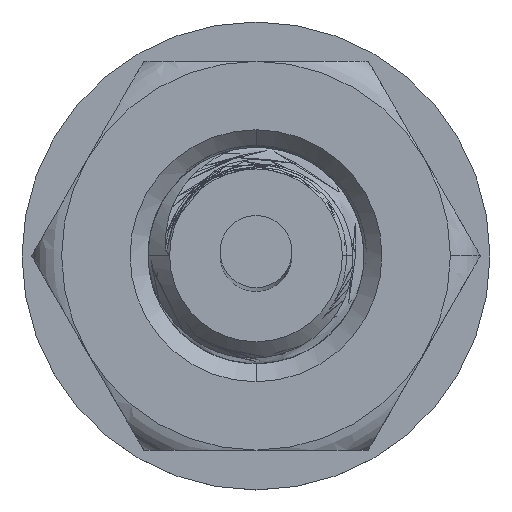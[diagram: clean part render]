
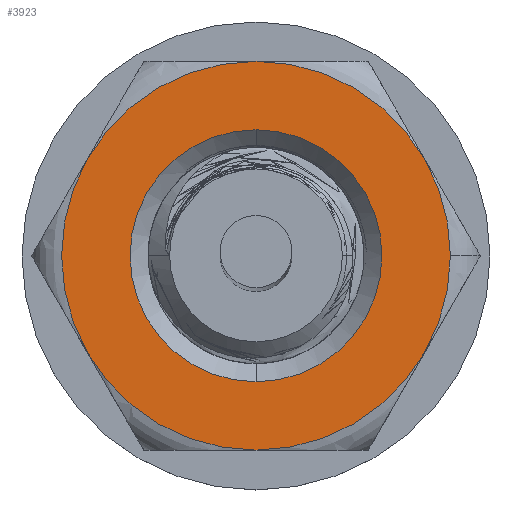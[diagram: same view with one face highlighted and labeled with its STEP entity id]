
A CAD part, top view. The second image highlights one B-rep face of the part: STEP entity #3923.
In plain terms, the highlighted planar face has unit normal (0, 0, 1) as drawn and (0, 1, 0) by its records, which use the part's own axes.
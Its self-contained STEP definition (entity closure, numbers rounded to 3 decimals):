
#242 = EDGE_CURVE ( 'NONE', #4236, #773, #2391, .T. ) ;
#297 = CARTESIAN_POINT ( 'NONE',  ( 0., 1., 1.75 ) ) ;
#321 = CARTESIAN_POINT ( 'NONE',  ( 0., 1., -1.75 ) ) ;
#384 = AXIS2_PLACEMENT_3D ( 'NONE', #4219, #6637, #3410 ) ;
#705 = EDGE_CURVE ( 'NONE', #3563, #6088, #6981, .T. ) ;
#757 = CIRCLE ( 'NONE', #5197, 2.7 ) ;
#773 = VERTEX_POINT ( 'NONE', #4909 ) ;
#885 = CARTESIAN_POINT ( 'NONE',  ( 0., 1., 0. ) ) ;
#921 = DIRECTION ( 'NONE',  ( 0., -1., 0. ) ) ;
#948 = CARTESIAN_POINT ( 'NONE',  ( 0., 1., -2.7 ) ) ;
#982 = VERTEX_POINT ( 'NONE', #3504 ) ;
#1058 = DIRECTION ( 'NONE',  ( 0., 0., 1. ) ) ;
#1077 = ORIENTED_EDGE ( 'NONE', *, *, #6786, .F. ) ;
#1399 = AXIS2_PLACEMENT_3D ( 'NONE', #885, #921, #3316 ) ;
#1427 = DIRECTION ( 'NONE',  ( 0., -1., 0. ) ) ;
#1505 = VERTEX_POINT ( 'NONE', #4540 ) ;
#1592 = CIRCLE ( 'NONE', #7462, 2.7 ) ;
#1685 = CARTESIAN_POINT ( 'NONE',  ( 0., 1., 0. ) ) ;
#1770 = CIRCLE ( 'NONE', #7246, 2.7 ) ;
#2080 = ORIENTED_EDGE ( 'NONE', *, *, #2748, .T. ) ;
#2383 = FACE_BOUND ( 'NONE', #2858, .T. ) ;
#2391 = CIRCLE ( 'NONE', #4434, 2.7 ) ;
#2613 = CARTESIAN_POINT ( 'NONE',  ( 2.7, 1., 0. ) ) ;
#2649 = CIRCLE ( 'NONE', #1399, 1.75 ) ;
#2748 = EDGE_CURVE ( 'NONE', #982, #3563, #757, .T. ) ;
#2756 = EDGE_CURVE ( 'NONE', #1505, #4236, #1770, .T. ) ;
#2858 = EDGE_LOOP ( 'NONE', ( #7073, #7312 ) ) ;
#2865 = CARTESIAN_POINT ( 'NONE',  ( 0., 1., 0. ) ) ;
#2908 = ORIENTED_EDGE ( 'NONE', *, *, #2756, .T. ) ;
#2983 = EDGE_CURVE ( 'NONE', #2992, #3543, #2649, .T. ) ;
#2992 = VERTEX_POINT ( 'NONE', #297 ) ;
#3044 = CARTESIAN_POINT ( 'NONE',  ( 0., 1., 0. ) ) ;
#3178 = CIRCLE ( 'NONE', #4699, 1.75 ) ;
#3299 = EDGE_CURVE ( 'NONE', #3543, #2992, #3178, .T. ) ;
#3316 = DIRECTION ( 'NONE',  ( 0., 0., 1. ) ) ;
#3410 = DIRECTION ( 'NONE',  ( 0., 0., 1. ) ) ;
#3504 = CARTESIAN_POINT ( 'NONE',  ( 2.338, 1., 1.35 ) ) ;
#3543 = VERTEX_POINT ( 'NONE', #321 ) ;
#3563 = VERTEX_POINT ( 'NONE', #2613 ) ;
#3629 = VERTEX_POINT ( 'NONE', #948 ) ;
#3849 = DIRECTION ( 'NONE',  ( 1., 0., 0. ) ) ;
#3923 = ADVANCED_FACE ( 'NONE', ( #2383, #4807 ), #7244, .T. ) ;
#3957 = EDGE_LOOP ( 'NONE', ( #7704, #1077, #2080, #6878, #7431, #6951, #2908 ) ) ;
#3986 = AXIS2_PLACEMENT_3D ( 'NONE', #1685, #1427, #3849 ) ;
#4199 = CARTESIAN_POINT ( 'NONE',  ( 0., 1., 0. ) ) ;
#4219 = CARTESIAN_POINT ( 'NONE',  ( 0., 1., 0. ) ) ;
#4236 = VERTEX_POINT ( 'NONE', #6315 ) ;
#4295 = DIRECTION ( 'NONE',  ( 0., 1., 0. ) ) ;
#4434 = AXIS2_PLACEMENT_3D ( 'NONE', #6715, #7284, #5434 ) ;
#4540 = CARTESIAN_POINT ( 'NONE',  ( -2.338, 1., -1.35 ) ) ;
#4699 = AXIS2_PLACEMENT_3D ( 'NONE', #7768, #5917, #7851 ) ;
#4807 = FACE_OUTER_BOUND ( 'NONE', #3957, .T. ) ;
#4909 = CARTESIAN_POINT ( 'NONE',  ( 0., 1., 2.7 ) ) ;
#5034 = EDGE_CURVE ( 'NONE', #6088, #3629, #1592, .T. ) ;
#5197 = AXIS2_PLACEMENT_3D ( 'NONE', #6107, #6066, #6550 ) ;
#5310 = CARTESIAN_POINT ( 'NONE',  ( 0., 1., 0. ) ) ;
#5378 = CIRCLE ( 'NONE', #6278, 2.7 ) ;
#5434 = DIRECTION ( 'NONE',  ( 0., 0., 1. ) ) ;
#5495 = DIRECTION ( 'NONE',  ( 0., 1., 0. ) ) ;
#5633 = CIRCLE ( 'NONE', #3986, 2.7 ) ;
#5917 = DIRECTION ( 'NONE',  ( 0., -1., 0. ) ) ;
#5940 = AXIS2_PLACEMENT_3D ( 'NONE', #5310, #7195, #7153 ) ;
#6066 = DIRECTION ( 'NONE',  ( 0., 1., 0. ) ) ;
#6088 = VERTEX_POINT ( 'NONE', #7382 ) ;
#6089 = DIRECTION ( 'NONE',  ( 0., 0., 1. ) ) ;
#6107 = CARTESIAN_POINT ( 'NONE',  ( 0., 1., 0. ) ) ;
#6278 = AXIS2_PLACEMENT_3D ( 'NONE', #4199, #5495, #6089 ) ;
#6315 = CARTESIAN_POINT ( 'NONE',  ( -2.338, 1., 1.35 ) ) ;
#6550 = DIRECTION ( 'NONE',  ( 0., 0., 1. ) ) ;
#6637 = DIRECTION ( 'NONE',  ( 0., 1., 0. ) ) ;
#6715 = CARTESIAN_POINT ( 'NONE',  ( 0., 1., 0. ) ) ;
#6717 = DIRECTION ( 'NONE',  ( 0., 0., 1. ) ) ;
#6786 = EDGE_CURVE ( 'NONE', #982, #773, #5633, .T. ) ;
#6878 = ORIENTED_EDGE ( 'NONE', *, *, #705, .T. ) ;
#6951 = ORIENTED_EDGE ( 'NONE', *, *, #7865, .T. ) ;
#6981 = CIRCLE ( 'NONE', #5940, 2.7 ) ;
#7073 = ORIENTED_EDGE ( 'NONE', *, *, #2983, .T. ) ;
#7153 = DIRECTION ( 'NONE',  ( 0., 0., 1. ) ) ;
#7195 = DIRECTION ( 'NONE',  ( 0., 1., 0. ) ) ;
#7244 = PLANE ( 'NONE',  #384 ) ;
#7246 = AXIS2_PLACEMENT_3D ( 'NONE', #3044, #4295, #6717 ) ;
#7284 = DIRECTION ( 'NONE',  ( 0., 1., 0. ) ) ;
#7312 = ORIENTED_EDGE ( 'NONE', *, *, #3299, .T. ) ;
#7382 = CARTESIAN_POINT ( 'NONE',  ( 2.338, 1., -1.35 ) ) ;
#7431 = ORIENTED_EDGE ( 'NONE', *, *, #5034, .T. ) ;
#7462 = AXIS2_PLACEMENT_3D ( 'NONE', #2865, #7748, #1058 ) ;
#7704 = ORIENTED_EDGE ( 'NONE', *, *, #242, .T. ) ;
#7748 = DIRECTION ( 'NONE',  ( 0., 1., 0. ) ) ;
#7768 = CARTESIAN_POINT ( 'NONE',  ( 0., 1., 0. ) ) ;
#7851 = DIRECTION ( 'NONE',  ( 0., 0., 1. ) ) ;
#7865 = EDGE_CURVE ( 'NONE', #3629, #1505, #5378, .T. ) ;
